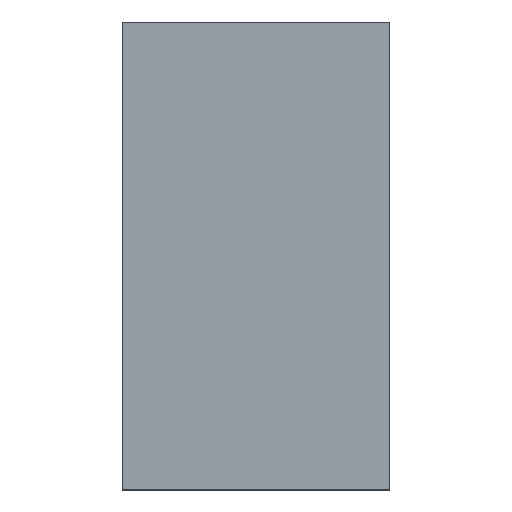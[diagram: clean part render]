
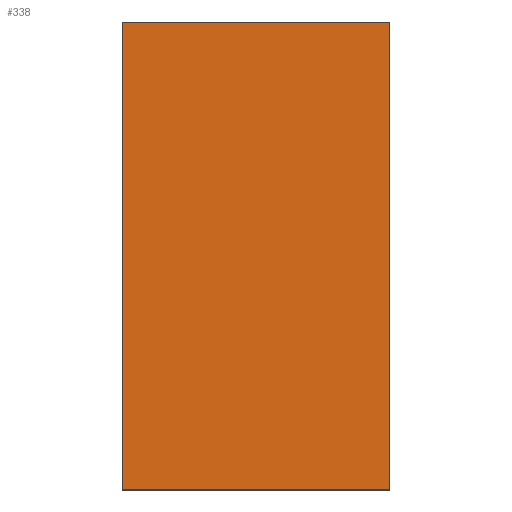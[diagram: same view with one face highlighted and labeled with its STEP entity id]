
A CAD part, top view. The second image highlights one B-rep face of the part: STEP entity #338.
In plain terms, the highlighted planar face has unit normal (0, 0, 1).
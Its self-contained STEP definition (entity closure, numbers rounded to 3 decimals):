
#24 = VERTEX_POINT('',#25);
#25 = CARTESIAN_POINT('',(-21.5,-30.,-8.725));
#32 = PLANE('',#33);
#33 = AXIS2_PLACEMENT_3D('',#34,#35,#36);
#34 = CARTESIAN_POINT('',(-21.5,-30.,-8.975));
#35 = DIRECTION('',(1.,0.,-0.));
#36 = DIRECTION('',(0.,0.,1.));
#44 = PLANE('',#45);
#45 = AXIS2_PLACEMENT_3D('',#46,#47,#48);
#46 = CARTESIAN_POINT('',(-21.5,-30.,-8.975));
#47 = DIRECTION('',(-0.,1.,0.));
#48 = DIRECTION('',(0.,0.,1.));
#85 = VERTEX_POINT('',#86);
#86 = CARTESIAN_POINT('',(-21.5,-19.5,-8.725));
#100 = PLANE('',#101);
#101 = AXIS2_PLACEMENT_3D('',#102,#103,#104);
#102 = CARTESIAN_POINT('',(-21.5,-19.5,-8.975));
#103 = DIRECTION('',(-0.,1.,0.));
#104 = DIRECTION('',(0.,0.,1.));
#112 = EDGE_CURVE('',#24,#85,#113,.T.);
#113 = SURFACE_CURVE('',#114,(#118,#125),.PCURVE_S1.);
#114 = LINE('',#115,#116);
#115 = CARTESIAN_POINT('',(-21.5,-30.,-8.725));
#116 = VECTOR('',#117,1.);
#117 = DIRECTION('',(-0.,1.,0.));
#118 = PCURVE('',#32,#119);
#119 = DEFINITIONAL_REPRESENTATION('',(#120),#124);
#120 = LINE('',#121,#122);
#121 = CARTESIAN_POINT('',(0.25,0.));
#122 = VECTOR('',#123,1.);
#123 = DIRECTION('',(0.,-1.));
#124 = ( GEOMETRIC_REPRESENTATION_CONTEXT(2) 
PARAMETRIC_REPRESENTATION_CONTEXT() REPRESENTATION_CONTEXT('2D SPACE',''
  ) );
#125 = PCURVE('',#126,#131);
#126 = PLANE('',#127);
#127 = AXIS2_PLACEMENT_3D('',#128,#129,#130);
#128 = CARTESIAN_POINT('',(-21.5,-30.,-8.725));
#129 = DIRECTION('',(0.,0.,1.));
#130 = DIRECTION('',(1.,0.,-0.));
#131 = DEFINITIONAL_REPRESENTATION('',(#132),#136);
#132 = LINE('',#133,#134);
#133 = CARTESIAN_POINT('',(0.,0.));
#134 = VECTOR('',#135,1.);
#135 = DIRECTION('',(0.,1.));
#136 = ( GEOMETRIC_REPRESENTATION_CONTEXT(2) 
PARAMETRIC_REPRESENTATION_CONTEXT() REPRESENTATION_CONTEXT('2D SPACE',''
  ) );
#144 = VERTEX_POINT('',#145);
#145 = CARTESIAN_POINT('',(-15.5,-30.,-8.725));
#152 = PLANE('',#153);
#153 = AXIS2_PLACEMENT_3D('',#154,#155,#156);
#154 = CARTESIAN_POINT('',(-15.5,-30.,-8.975));
#155 = DIRECTION('',(1.,0.,-0.));
#156 = DIRECTION('',(0.,0.,1.));
#195 = VERTEX_POINT('',#196);
#196 = CARTESIAN_POINT('',(-15.5,-19.5,-8.725));
#217 = EDGE_CURVE('',#144,#195,#218,.T.);
#218 = SURFACE_CURVE('',#219,(#223,#230),.PCURVE_S1.);
#219 = LINE('',#220,#221);
#220 = CARTESIAN_POINT('',(-15.5,-30.,-8.725));
#221 = VECTOR('',#222,1.);
#222 = DIRECTION('',(-0.,1.,0.));
#223 = PCURVE('',#152,#224);
#224 = DEFINITIONAL_REPRESENTATION('',(#225),#229);
#225 = LINE('',#226,#227);
#226 = CARTESIAN_POINT('',(0.25,0.));
#227 = VECTOR('',#228,1.);
#228 = DIRECTION('',(0.,-1.));
#229 = ( GEOMETRIC_REPRESENTATION_CONTEXT(2) 
PARAMETRIC_REPRESENTATION_CONTEXT() REPRESENTATION_CONTEXT('2D SPACE',''
  ) );
#230 = PCURVE('',#126,#231);
#231 = DEFINITIONAL_REPRESENTATION('',(#232),#236);
#232 = LINE('',#233,#234);
#233 = CARTESIAN_POINT('',(6.,0.));
#234 = VECTOR('',#235,1.);
#235 = DIRECTION('',(0.,1.));
#236 = ( GEOMETRIC_REPRESENTATION_CONTEXT(2) 
PARAMETRIC_REPRESENTATION_CONTEXT() REPRESENTATION_CONTEXT('2D SPACE',''
  ) );
#263 = EDGE_CURVE('',#24,#144,#264,.T.);
#264 = SURFACE_CURVE('',#265,(#269,#276),.PCURVE_S1.);
#265 = LINE('',#266,#267);
#266 = CARTESIAN_POINT('',(-21.5,-30.,-8.725));
#267 = VECTOR('',#268,1.);
#268 = DIRECTION('',(1.,0.,-0.));
#269 = PCURVE('',#44,#270);
#270 = DEFINITIONAL_REPRESENTATION('',(#271),#275);
#271 = LINE('',#272,#273);
#272 = CARTESIAN_POINT('',(0.25,0.));
#273 = VECTOR('',#274,1.);
#274 = DIRECTION('',(0.,1.));
#275 = ( GEOMETRIC_REPRESENTATION_CONTEXT(2) 
PARAMETRIC_REPRESENTATION_CONTEXT() REPRESENTATION_CONTEXT('2D SPACE',''
  ) );
#276 = PCURVE('',#126,#277);
#277 = DEFINITIONAL_REPRESENTATION('',(#278),#282);
#278 = LINE('',#279,#280);
#279 = CARTESIAN_POINT('',(0.,0.));
#280 = VECTOR('',#281,1.);
#281 = DIRECTION('',(1.,0.));
#282 = ( GEOMETRIC_REPRESENTATION_CONTEXT(2) 
PARAMETRIC_REPRESENTATION_CONTEXT() REPRESENTATION_CONTEXT('2D SPACE',''
  ) );
#310 = EDGE_CURVE('',#85,#195,#311,.T.);
#311 = SURFACE_CURVE('',#312,(#316,#323),.PCURVE_S1.);
#312 = LINE('',#313,#314);
#313 = CARTESIAN_POINT('',(-21.5,-19.5,-8.725));
#314 = VECTOR('',#315,1.);
#315 = DIRECTION('',(1.,0.,-0.));
#316 = PCURVE('',#100,#317);
#317 = DEFINITIONAL_REPRESENTATION('',(#318),#322);
#318 = LINE('',#319,#320);
#319 = CARTESIAN_POINT('',(0.25,0.));
#320 = VECTOR('',#321,1.);
#321 = DIRECTION('',(0.,1.));
#322 = ( GEOMETRIC_REPRESENTATION_CONTEXT(2) 
PARAMETRIC_REPRESENTATION_CONTEXT() REPRESENTATION_CONTEXT('2D SPACE',''
  ) );
#323 = PCURVE('',#126,#324);
#324 = DEFINITIONAL_REPRESENTATION('',(#325),#329);
#325 = LINE('',#326,#327);
#326 = CARTESIAN_POINT('',(0.,10.5));
#327 = VECTOR('',#328,1.);
#328 = DIRECTION('',(1.,0.));
#329 = ( GEOMETRIC_REPRESENTATION_CONTEXT(2) 
PARAMETRIC_REPRESENTATION_CONTEXT() REPRESENTATION_CONTEXT('2D SPACE',''
  ) );
#338 = ADVANCED_FACE('',(#339),#126,.T.);
#339 = FACE_BOUND('',#340,.T.);
#340 = EDGE_LOOP('',(#341,#342,#343,#344));
#341 = ORIENTED_EDGE('',*,*,#112,.F.);
#342 = ORIENTED_EDGE('',*,*,#263,.T.);
#343 = ORIENTED_EDGE('',*,*,#217,.T.);
#344 = ORIENTED_EDGE('',*,*,#310,.F.);
